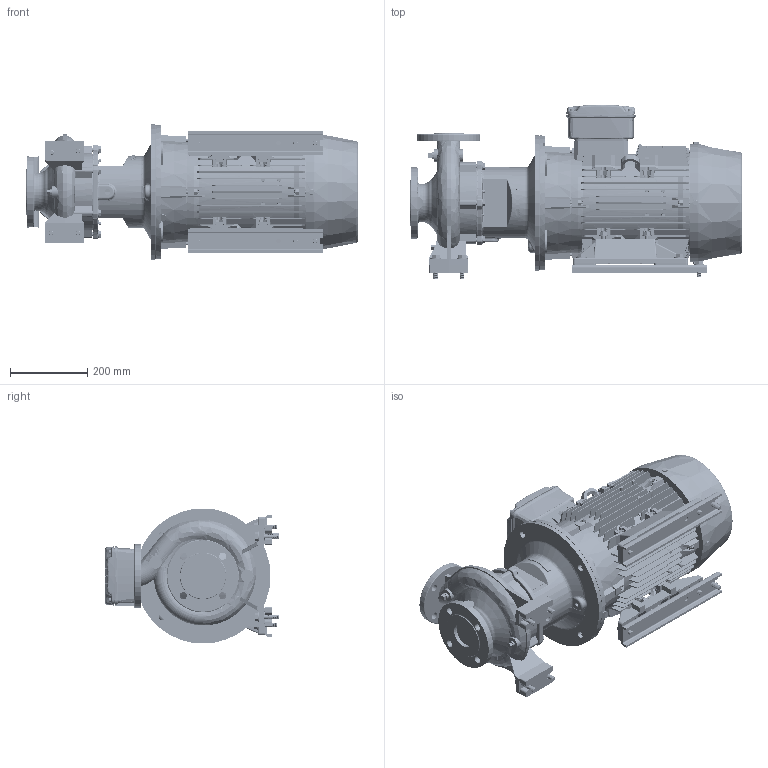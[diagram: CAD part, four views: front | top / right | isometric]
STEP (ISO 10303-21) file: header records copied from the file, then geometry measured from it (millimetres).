
FILE_DESCRIPTION (( 'STEP AP214' ), '1' );
FILE_NAME ('GSD2 50-160_11.0 & 15.0_(160ML)_W21.STEP', '2026-07-07T04:09:07', ( '' ), ( '' ), 'SwSTEP 2.0', 'SolidWorks 2024', '' );
FILE_SCHEMA (( 'AUTOMOTIVE_DESIGN' ));
Length unit declared in the file: millimetre
Products named in the file (10): 160M_L_ALIE3_W21T_B35; 210_254 x 20 - 271472113; CGS11-5301_2_3_4_5_CGS11-5301; Parametric bolt_SFT-A309B; 50-160-160M_L; Parametric bolt_SFT-A301B; Parametric Flat Washer_M12; Parametric bolt and washer_SFT-A301B; Parametric bolt and washer_SFT-A309B; GSD2  50-160_11.0 & 15.0_(160ML)_W21
Assembly tree (20 placements, depth 3):
  GSD2  50-160_11.0 & 15.0_(160ML)_W21
    50-160-160M_L
    CGS11-5301_2_3_4_5_CGS11-5301  x2
    210_254 x 20 - 271472113  x2
    Parametric bolt and washer_SFT-A309B  x4
      Parametric bolt_SFT-A309B
      Parametric Flat Washer_M12
    Parametric bolt and washer_SFT-A301B  x6
      Parametric bolt_SFT-A301B
      Parametric Flat Washer_M12
    160M_L_ALIE3_W21T_B35
Bounding box: 860.3 x 452 x 350 mm (x, y, z)
Volume: 42669038.6 mm3; surface area: 2835921.5 mm2
Topology: 64 solids, 70 shells, 6291 faces, 16375 edges, 10635 vertices
Faces by surface type: plane 3749, cylinder 1279, cone 545, bspline 453, torus 241, sphere 24
Entity records: 215985 total; most frequent: CARTESIAN_POINT 80485, ORIENTED_EDGE 29734, DIRECTION 25152, EDGE_CURVE 14867, VERTEX_POINT 9675, LINE 9488, VECTOR 9488, AXIS2_PLACEMENT_3D 7832
